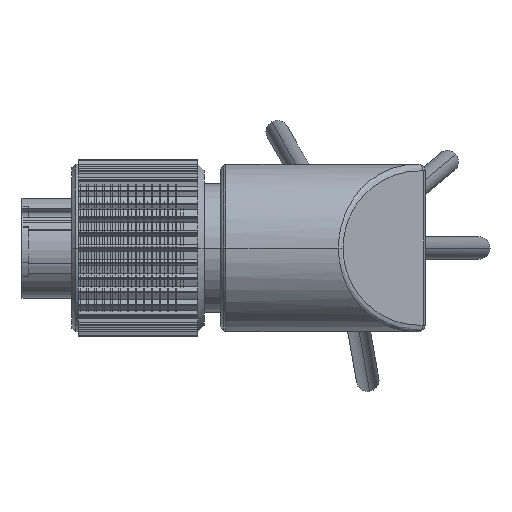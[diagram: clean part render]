
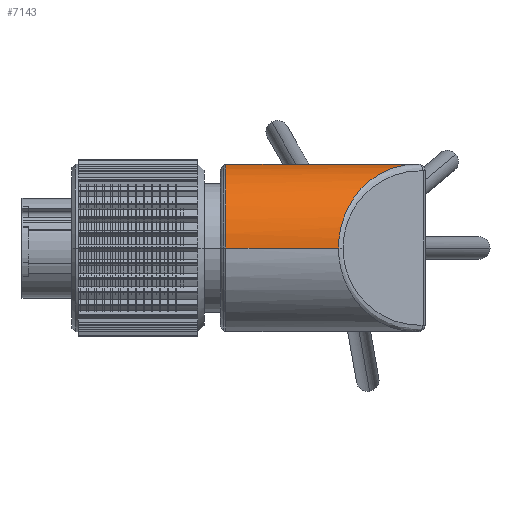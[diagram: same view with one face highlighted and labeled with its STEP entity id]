
A CAD part, front view. The second image highlights one B-rep face of the part: STEP entity #7143.
In plain terms, the highlighted cylindrical face has radius 6.604 mm (diameter 13.208 mm), a partial arc.
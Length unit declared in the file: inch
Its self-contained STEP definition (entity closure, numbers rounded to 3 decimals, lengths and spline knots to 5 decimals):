
#16=CARTESIAN_POINT('',(1.23,0.00896,0.25985));
#76=DIRECTION('',(-1.,0.,0.));
#77=VECTOR('',#76,0.13275);
#78=CARTESIAN_POINT('',(0.76507,0.26,0.));
#79=LINE('',#78,#77);
#80=DIRECTION('',(-1.,0.,0.));
#81=VECTOR('',#80,0.3494);
#82=CARTESIAN_POINT('',(0.98172,-0.26,
0.));
#83=LINE('',#82,#81);
#98=CARTESIAN_POINT('',(0.98172,-0.26,
0.));
#207=CARTESIAN_POINT('',(0.76507,0.26,0.));
#208=CARTESIAN_POINT('',(0.76507,0.26,0.01001));
#209=CARTESIAN_POINT('',(0.76627,0.25885,
0.03044));
#210=CARTESIAN_POINT('',(0.77227,0.25314,
0.06225));
#211=CARTESIAN_POINT('',(0.78262,0.24331,
0.09361));
#212=CARTESIAN_POINT('',(0.79756,0.22921,
0.12437));
#213=CARTESIAN_POINT('',(0.81756,0.21051,
0.1538));
#214=CARTESIAN_POINT('',(0.839,0.19079,
0.17739));
#215=CARTESIAN_POINT('',(0.86032,0.17163,
0.19583));
#216=CARTESIAN_POINT('',(0.88107,0.15355,
0.21018));
#217=CARTESIAN_POINT('',(0.90115,0.13686,
0.22132));
#218=CARTESIAN_POINT('',(0.92031,0.122,
0.22978));
#219=CARTESIAN_POINT('',(0.93864,0.10922,
0.23606));
#220=CARTESIAN_POINT('',(0.95617,0.0989,
0.24052));
#221=CARTESIAN_POINT('',(0.97322,0.09143,
0.24342));
#222=CARTESIAN_POINT('',(0.98908,0.08748,
0.24484));
#223=CARTESIAN_POINT('',(1.00418,0.08677,0.24509));
#224=CARTESIAN_POINT('',(1.01986,0.08931,0.24419));
#225=CARTESIAN_POINT('',(1.03624,0.09522,0.24198));
#226=CARTESIAN_POINT('',(1.05344,0.10429,0.23826));
#227=CARTESIAN_POINT('',(1.07107,0.11579,0.23293));
#228=CARTESIAN_POINT('',(1.0892,0.12923,0.22581));
#229=CARTESIAN_POINT('',(1.10835,0.14464,0.21635));
#230=CARTESIAN_POINT('',(1.12837,0.16169,0.20402));
#231=CARTESIAN_POINT('',(1.14896,0.17991,0.18828));
#232=CARTESIAN_POINT('',(1.17006,0.19908,0.16814));
#233=CARTESIAN_POINT('',(1.19114,0.21862,0.14211));
#234=CARTESIAN_POINT('',(1.20913,0.23552,0.1119));
#235=CARTESIAN_POINT('',(1.22216,0.24785,0.08082));
#236=CARTESIAN_POINT('',(1.22787,0.25328,0.05971));
#237=CARTESIAN_POINT('',(1.23,0.25531,0.04918));
#239=CARTESIAN_POINT('',(1.23,0.,0.));
#240=DIRECTION('',(-1.,0.,0.));
#241=DIRECTION('',(0.,0.034,0.999));
#242=AXIS2_PLACEMENT_3D('',#239,#240,#241);
#244=CARTESIAN_POINT('',(0.98172,-0.26,
0.));
#245=CARTESIAN_POINT('',(0.98172,-0.26,
0.00731));
#246=CARTESIAN_POINT('',(0.98228,-0.25938,
0.02263));
#247=CARTESIAN_POINT('',(0.98535,-0.25607,
0.04752));
#248=CARTESIAN_POINT('',(0.99117,-0.24976,
0.07408));
#249=CARTESIAN_POINT('',(1.00024,-0.23994,
0.10166));
#250=CARTESIAN_POINT('',(1.01299,-0.22612,
0.12966));
#251=CARTESIAN_POINT('',(1.02975,-0.20796,
0.15727));
#252=CARTESIAN_POINT('',(1.05082,-0.18513,
0.18373));
#253=CARTESIAN_POINT('',(1.07647,-0.15735,
0.20814));
#254=CARTESIAN_POINT('',(1.10686,-0.12442,
0.22949));
#255=CARTESIAN_POINT('',(1.14224,-0.0861,
0.2466));
#256=CARTESIAN_POINT('',(1.18272,-0.04224,
0.25802));
#257=CARTESIAN_POINT('',(1.21373,-0.00866,
0.26045));
#258=CARTESIAN_POINT('',(1.23,0.00896,0.25985));
#306=CARTESIAN_POINT('',(0.63232,0.,0.));
#307=DIRECTION('',(1.,0.,0.));
#308=DIRECTION('',(0.,1.,0.));
#309=AXIS2_PLACEMENT_3D('',#306,#307,#308);
#5605=CARTESIAN_POINT('',(0.63232,0.26,0.));
#5606=CARTESIAN_POINT('',(0.63232,-0.26,0.));
#5607=VERTEX_POINT('',#5605);
#5608=VERTEX_POINT('',#5606);
#5609=CARTESIAN_POINT('',(0.76507,0.26,0.));
#5610=VERTEX_POINT('',#5609);
#6273=VERTEX_POINT('',#237);
#6281=VERTEX_POINT('',#16);
#6623=VERTEX_POINT('',#98);
#7128=CARTESIAN_POINT('',(-4.33492,0.,0.));
#7129=DIRECTION('',(1.,0.,0.));
#7130=DIRECTION('',(0.,-1.,0.));
#7131=AXIS2_PLACEMENT_3D('',#7128,#7129,#7130);
#7132=CYLINDRICAL_SURFACE('',#7131,0.26);
#7133=ORIENTED_EDGE('',*,*,#7110,.T.);
#7134=ORIENTED_EDGE('',*,*,#6895,.F.);
#7136=ORIENTED_EDGE('',*,*,#7135,.F.);
#7137=ORIENTED_EDGE('',*,*,#7074,.T.);
#7139=ORIENTED_EDGE('',*,*,#7138,.F.);
#7140=ORIENTED_EDGE('',*,*,#7070,.F.);
#7141=EDGE_LOOP('',(#7133,#7134,#7136,#7137,#7139,#7140));
#7142=FACE_OUTER_BOUND('',#7141,.F.);
#7143=ADVANCED_FACE('',(#7142),#7132,.T.);
#238=B_SPLINE_CURVE_WITH_KNOTS('',3,(#207,#208,#209,#210,#211,#212,#213,#214,
#215,#216,#217,#218,#219,#220,#221,#222,#223,#224,#225,#226,#227,#228,#229,#230,
#231,#232,#233,#234,#235,#236,#237),.UNSPECIFIED.,.F.,.F.,(4,1,1,1,1,1,1,1,1,1,
1,1,1,1,1,1,1,1,1,1,1,1,1,1,1,1,1,1,4),(0.,0.03571,
0.07143,0.10714,0.14286,0.17857,
0.21429,0.25,0.28571,0.32143,0.35714,
0.39286,0.42857,0.46429,0.5,0.53571,
0.57143,0.60714,0.64286,0.67857,
0.71429,0.75,0.78571,0.82143,0.85714,
0.89286,0.92857,0.96429,1.),.UNSPECIFIED.);
#243=CIRCLE('',#242,0.26);
#259=B_SPLINE_CURVE_WITH_KNOTS('',3,(#244,#245,#246,#247,#248,#249,#250,#251,
#252,#253,#254,#255,#256,#257,#258),.UNSPECIFIED.,.F.,.F.,(4,1,1,1,1,1,1,1,1,1,
1,1,4),(0.,0.08333,0.16667,0.25,0.33333,
0.41667,0.5,0.58333,0.66667,0.75,
0.83333,0.91667,1.),.UNSPECIFIED.);
#310=CIRCLE('',#309,0.26);
#6895=EDGE_CURVE('',#6281,#6273,#243,.T.);
#7070=EDGE_CURVE('',#5610,#5607,#79,.T.);
#7074=EDGE_CURVE('',#6623,#5608,#83,.T.);
#7110=EDGE_CURVE('',#5610,#6273,#238,.T.);
#7135=EDGE_CURVE('',#6623,#6281,#259,.T.);
#7138=EDGE_CURVE('',#5607,#5608,#310,.T.);
